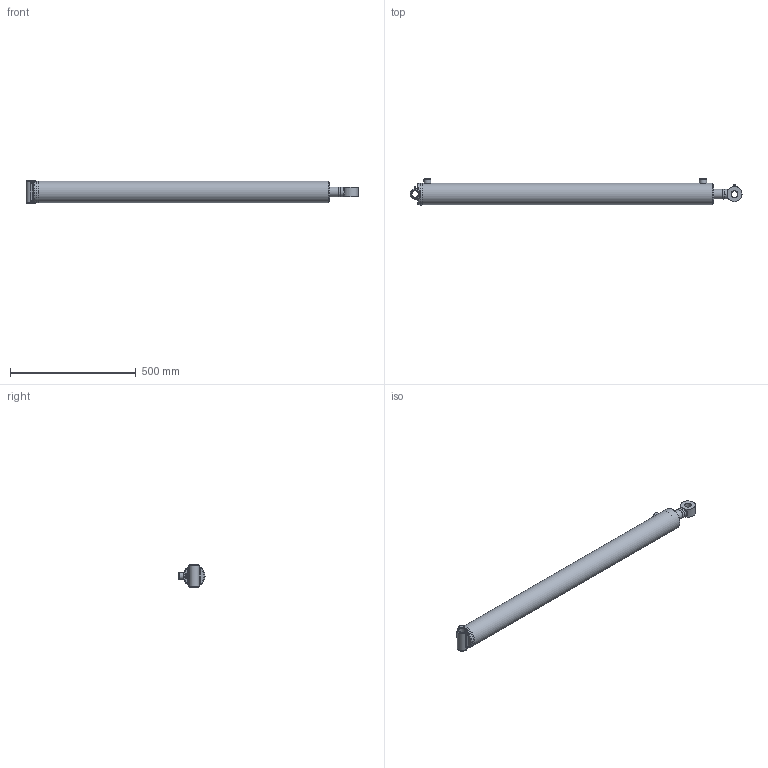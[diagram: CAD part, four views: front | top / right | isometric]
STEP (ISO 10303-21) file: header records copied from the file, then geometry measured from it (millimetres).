
FILE_DESCRIPTION(/* description */ ('Ø3.00 X 42.00 DA'),/* implementation_level */ '2;1');
FILE_NAME(/* name */ 'result.stp',/* time_stamp */ '2024-07-12T20:48:52Z',/* author */ ('AJC'),/* organization */ ('PRINCE MANUFACTURING'),/* preprocessor_version */ 'ST-DEVELOPER v20',/* originating_system */ 'Autodesk Inventor 2024',/* authorisation */ '');
FILE_SCHEMA (('AUTOMOTIVE_DESIGN { 1 0 10303 214 3 1 1 }'));
Length unit declared in the file: inch
Products named in the file (21): PC3042015A00-500XTXS; 0615-XTSF000-45507; 0515-T-45507; 161500198; 200015603; 06Weld1_C360; 0715-P-100; 220000210; 0815-G-150; 230025104; 230025004; 240000022; 240061334; 240000334; 0208A-HAW2-47813XS; 0108A-HAW2-47813; 210400772; 02Weld_C360; 240020059; 250014150; 270010020
Assembly tree (22 placements, depth 3):
  PC3042015A00-500XTXS
    0615-XTSF000-45507
      0515-T-45507
      161500198
      200015603  x2
      06Weld1_C360
    0715-P-100
    220000210
    0815-G-150
    230025104
    230025004
    240000022
    240061334
    240000334
    0208A-HAW2-47813XS
      0108A-HAW2-47813
      210400772
      02Weld_C360
    240020059
    250014150
    270010020  x2
Bounding box: 1320.04 x 104.04 x 88.9 mm (x, y, z)
Volume: 3250932.6 mm3; surface area: 889859.9 mm2
Topology: 26 solids, 26 shells, 564 faces, 1375 edges, 870 vertices
Faces by surface type: bspline 162, plane 135, torus 95, cylinder 84, cone 84, sphere 4
Full cylindrical faces by diameter (mm): 2.143 x4, 3.175 x1, 5.359 x2, 6.35 x2, 9.525 x2, 12.649 x1, 12.7 x1, 12.725 x1, 17.323 x2, 23.444 x1, 25.349 x1, 25.476 x1, 25.781 x1, 26.162 x1, 27.965 x1, 28.575 x2, 38.1 x1, 38.176 x2, 39.294 x2, 40.132 x1, 40.488 x1, 45.263 x1, 46.457 x1, 47.65 x1, 49.276 x2, 50.8 x2, 61.976 x1, 63.5 x2, 66.777 x2, 67.513 x2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
Entity records: 35075 total; most frequent: CARTESIAN_POINT 22422, ORIENTED_EDGE 2512, DIRECTION 2178, EDGE_CURVE 1256, AXIS2_PLACEMENT_3D 915, VERTEX_POINT 809, EDGE_LOOP 595, FACE_OUTER_BOUND 520
